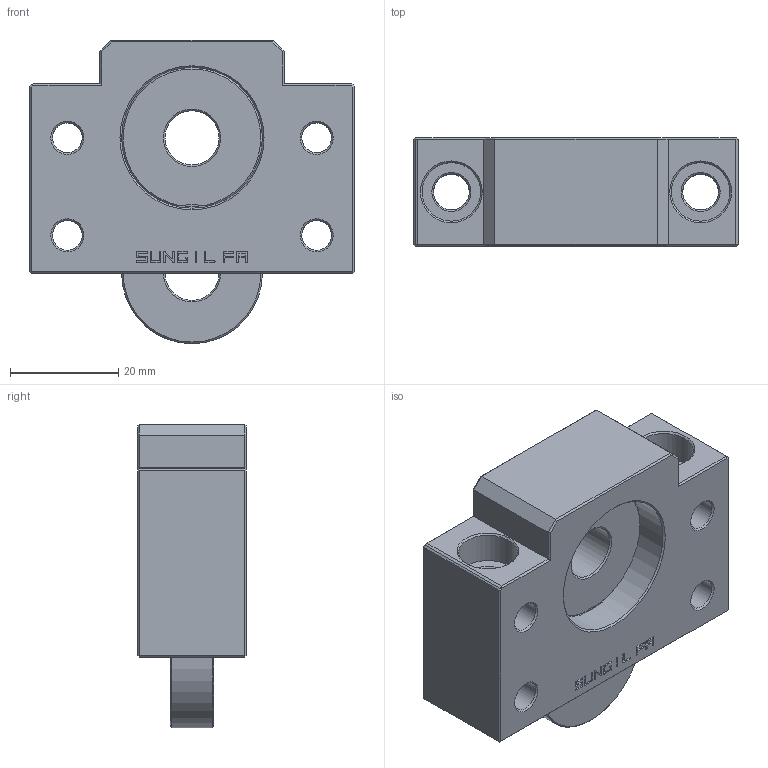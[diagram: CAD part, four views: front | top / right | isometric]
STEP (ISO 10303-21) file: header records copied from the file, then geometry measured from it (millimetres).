
FILE_DESCRIPTION( ( 'Unknown' ), '1' );
FILE_NAME( 'D:/3D/憮んお嶸棉/20060119/SBF TYPE/SBF12/SBF12(ASSM).stp', 'Unknown', ( 'Unknown' ), ( 'Unknown' ), 'XStep 1.0', 'Unknown', ' ' );
FILE_SCHEMA( ( 'CONFIG_CONTROL_DESIGN' ) );
Length unit declared in the file: millimetre
Products named in the file (3): Assem1; SBF12(housing); bearing(6000ZZ)
Bounding box: 60 x 20 x 56 mm (x, y, z)
Surface area: 26313.8 mm2
Topology: 4 solids, 4 shells, 804 faces, 2172 edges, 1416 vertices
Faces by surface type: plane 430, cylinder 334, cone 40
Full cylindrical faces by diameter (mm): 5.5 x16, 6.6 x4, 10 x2, 10.8 x4, 26 x4
Entity records: 13075 total; most frequent: CARTESIAN_POINT 2668, DIRECTION 2191, ORIENTED_EDGE 2086, EDGE_CURVE 1043, AXIS2_PLACEMENT_3D 751, VERTEX_POINT 700, LINE 689, VECTOR 689
